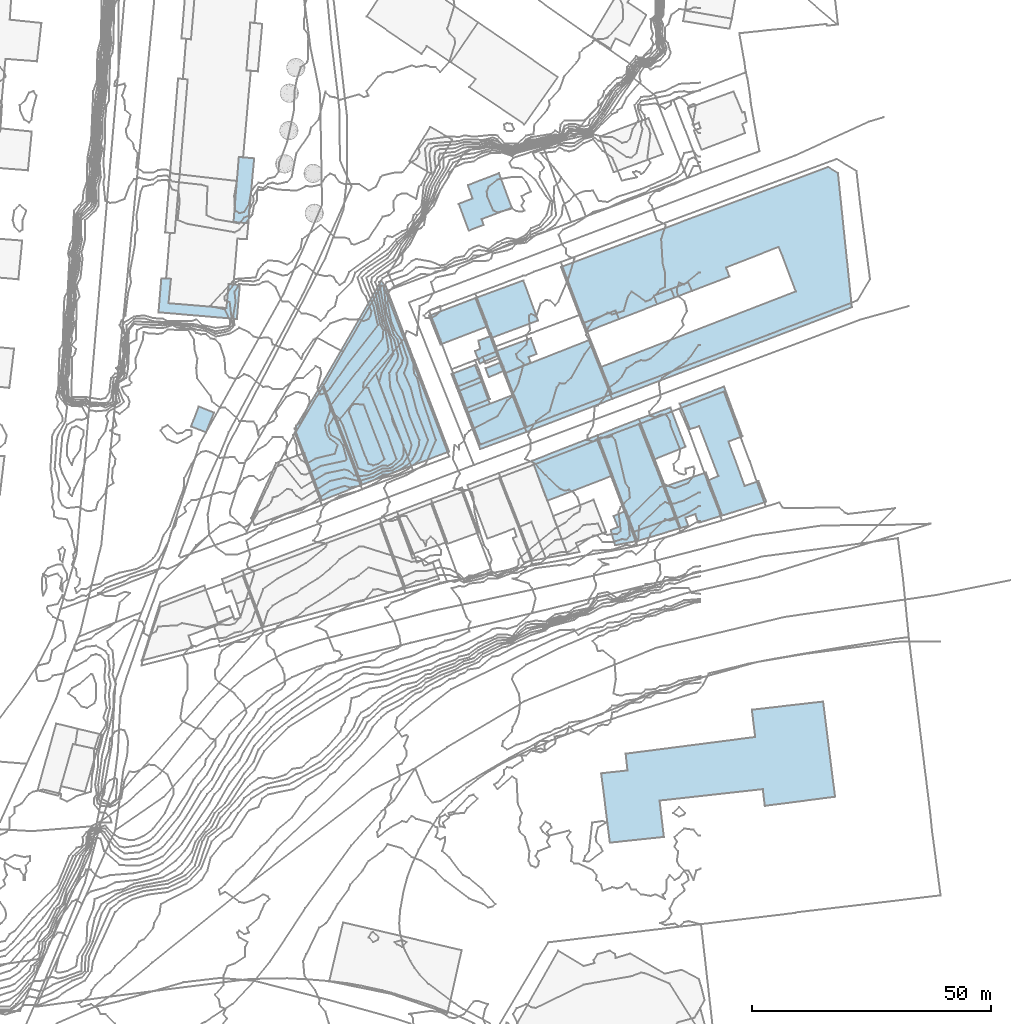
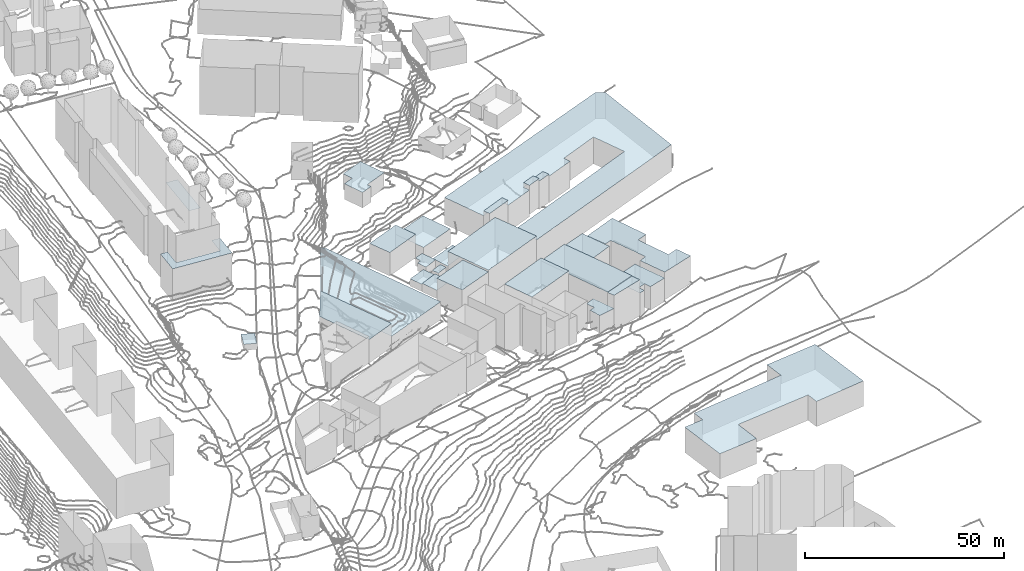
# Not in any storey, part 86 of 419: 27 roofs.
"""IFC2X3 model written with IfcOpenShell, lengths in metres."""

from ifc_helpers import new_model, si_unit, frame, origin_with_axes, place, context, subcontext, project, faceted_brep, element, save


model = new_model("IFC2X3")

# Units and contexts
model_context = context("Model", 3, precision=1e-05, world=origin_with_axes())
body_context = subcontext(model_context, "Body", "Model", "MODEL_VIEW")
ifc_project = project(units=[si_unit("AREAUNIT", "SQUARE_METRE"), si_unit("LENGTHUNIT", "METRE")], contexts=[model_context])

# Roofs
roof_1_placement = place(None, frame((919.7920204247, 707.8976909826, 81.4396011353), z_axis=(0.0, 0.0, 1.0), x_axis=(1.0, 0.0, 0.0)))
element("IfcRoof", 1, at=roof_1_placement, Name="Toiture 0", ShapeType="NOTDEFINED", context=body_context, shape_type="Brep", body=[
    faceted_brep([(12.0, -2.2999999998, 7.1603988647), (9.7000000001, 3.7000000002, 7.1603988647), (0.0, 0.0, 7.1603988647), (2.4, -6.0, 7.1603988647)], [[[0, 1, 2]], [[2, 3, 0]]]),
])
roof_2_placement = place(None, frame((957.7920204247, 663.0976909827, 76.6620004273), z_axis=(0.0, 0.0, 1.0), x_axis=(1.0, 0.0, 0.0)))
element("IfcRoof", 2, at=roof_2_placement, Name="Toiture 0", ShapeType="NOTDEFINED", context=body_context, shape_type="Brep", body=[
    faceted_brep([(0.9, -3.2000000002, 5.3379995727), (5.6000000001, -2.2999999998, 5.3379995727), (3.2000000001, 4.0, 5.3379995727), (0.6000000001, 2.8999999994, 5.3379995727), (1.5, 0.5999999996, 5.3379995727), (0.0, 0.0, 5.3379995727)], [[[0, 1, 2]], [[2, 3, 4]], [[4, 5, 0]], [[0, 2, 4]]]),
])
roof_3_placement = place(None, frame((891.6920204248, 684.2976909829, 83.1860015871), z_axis=(0.0, 0.0, 1.0), x_axis=(1.0, 0.0, 0.0)))
element("IfcRoof", 3, at=roof_3_placement, Name="Toiture 0", ShapeType="NOTDEFINED", context=body_context, shape_type="Brep", body=[
    faceted_brep([(0.0, 0.0, 7.2139984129), (5.7000000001, -15.0, 7.2139984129), (14.1, -11.7000000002, 7.2139984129), (5.8, 9.5999999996, 7.2139984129)], [[[0, 1, 2]], [[2, 3, 0]]]),
])
roof_4_placement = place(None, frame((924.4920204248, 695.6976909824, 81.3057990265), z_axis=(0.0, 0.0, 1.0), x_axis=(1.0, 0.0, 0.0)))
element("IfcRoof", 4, at=roof_4_placement, Name="Toiture 0", ShapeType="NOTDEFINED", context=body_context, shape_type="Brep", body=[
    faceted_brep([(0.0, 0.0, 2.1942009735), (1.4, -3.5999999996, 2.1942009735), (6.2999999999, -1.5999999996, 2.1942009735), (4.9, 1.9000000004, 2.1942009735)], [[[0, 1, 2]], [[2, 3, 0]]]),
])
roof_5_placement = place(None, frame((933.7920204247, 700.4976909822, 80.5634998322), z_axis=(0.0, 0.0, 1.0), x_axis=(1.0, 0.0, 0.0)))
element("IfcRoof", 5, at=roof_5_placement, Name="Toiture 0", ShapeType="NOTDEFINED", context=body_context, shape_type="Brep", body=[
    faceted_brep([(8.5, -0.5999999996, 2.9365001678), (7.3, 2.7000000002, 2.9365001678), (0.0, 0.0, 2.9365001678), (1.7000000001, -4.6999999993, 2.9365001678), (7.2000000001, -2.3999999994, 2.9365001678), (6.8, -1.1999999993, 2.9365001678)], [[[0, 1, 2]], [[2, 3, 4]], [[5, 0, 2]], [[2, 4, 5]]]),
])
roof_6_placement = place(None, frame((947.3920204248, 718.0976909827, 78.6544979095), z_axis=(0.0, 0.0, 1.0), x_axis=(1.0, 0.0, 0.0)))
element("IfcRoof", 6, at=roof_6_placement, Name="Toiture 0", ShapeType="NOTDEFINED", context=body_context, shape_type="Brep", body=[
    faceted_brep([(55.7999999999, 20.8999999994, 8.1455020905), (0.0, 0.0, 8.1455020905), (4.5, -11.7999999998, 8.1455020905), (11.3999999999, -9.1000000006, 8.1455020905), (12.1, -10.9000000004, 8.1455020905), (20.1, -7.7999999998, 8.1455020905), (26.6, -3.2000000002, 8.1455020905), (27.3999999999, -5.0, 8.1455020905), (35.2, -2.0, 8.1455020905), (49.1, -5.1000000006, 8.1455020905), (8.1, -21.0, 8.1455020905), (10.7, -27.6000000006, 8.1455020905), (60.7999999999, -8.4000000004, 8.1455020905), (57.8999999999, 19.5999999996, 8.1455020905), (19.3999999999, -6.0, 8.1455020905), (34.5, -0.1000000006, 8.1455020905), (46.2999999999, 2.2999999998, 8.1455020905), (45.5, 4.2000000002, 8.1455020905)], [[[0, 1, 2]], [[3, 4, 5]], [[6, 7, 8]], [[9, 10, 11]], [[12, 13, 0]], [[0, 2, 3]], [[3, 5, 14]], [[6, 8, 15]], [[9, 11, 12]], [[0, 3, 14]], [[14, 6, 15]], [[16, 9, 12]], [[0, 14, 15]], [[17, 16, 12]], [[0, 15, 17]], [[17, 12, 0]]]),
])
roof_7_placement = place(None, frame((963.6920204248, 686.2976909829, 77.7188002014), z_axis=(0.0, 0.0, 1.0), x_axis=(1.0, 0.0, 0.0)))
element("IfcRoof", 7, at=roof_7_placement, Name="Toiture 0", ShapeType="NOTDEFINED", context=body_context, shape_type="Brep", body=[
    faceted_brep([(9.7000000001, -5.8000000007, 7.8811997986), (6.6, 2.3999999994, 7.8811997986), (0.0, 0.0, 7.8811997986), (3.3, -8.4000000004, 7.8811997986)], [[[0, 1, 2]], [[2, 3, 0]]]),
])
roof_8_placement = place(None, frame((970.3920204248, 713.4976909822, 78.7406013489), z_axis=(0.0, 0.0, 1.0), x_axis=(1.0, 0.0, 0.0)))
element("IfcRoof", 8, at=roof_8_placement, Name="Toiture 0", ShapeType="NOTDEFINED", context=body_context, shape_type="Brep", body=[
    faceted_brep([(3.6, 1.4000000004, 8.6593986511), (0.0, 0.0, 8.6593986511), (0.7, -1.7999999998, 8.6593986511), (4.3999999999, -0.3999999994, 8.6593986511)], [[[0, 1, 2]], [[2, 3, 0]]]),
])
roof_9_placement = place(None, frame((929.3920204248, 700.4976909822, 81.3559997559), z_axis=(0.0, 0.0, 1.0), x_axis=(1.0, 0.0, 0.0)))
element("IfcRoof", 9, at=roof_9_placement, Name="Toiture 0", ShapeType="NOTDEFINED", context=body_context, shape_type="Brep", body=[
    faceted_brep([(4.7, -1.0, 2.3440002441), (3.2999999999, 2.7000000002, 2.3440002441), (3.1, 3.1000000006, 2.3440002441), (0.7, 2.2000000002, 2.3440002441), (1.1, 0.5, 2.3440002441), (0.0, 0.0, 2.3440002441), (1.0, -2.5999999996, 2.3440002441)], [[[0, 1, 2]], [[2, 3, 4]], [[4, 5, 6]], [[6, 0, 2]], [[2, 4, 6]]]),
])
roof_10_placement = place(None, frame((966.7920204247, 712.0976909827, 79.3546003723), z_axis=(0.0, 0.0, 1.0), x_axis=(1.0, 0.0, 0.0)))
element("IfcRoof", 10, at=roof_10_placement, Name="Toiture 0", ShapeType="NOTDEFINED", context=body_context, shape_type="Brep", body=[
    faceted_brep([(3.6000000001, 1.3999999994, 8.8453996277), (0.0, 0.0, 8.8453996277), (0.7000000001, -1.7999999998, 8.8453996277), (4.3, -0.4000000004, 8.8453996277)], [[[0, 1, 2]], [[2, 3, 0]]]),
])
roof_11_placement = place(None, frame((931.5920204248, 696.8976909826, 81.344001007), z_axis=(0.0, 0.0, 1.0), x_axis=(1.0, 0.0, 0.0)))
element("IfcRoof", 11, at=roof_11_placement, Name="Toiture 0", ShapeType="NOTDEFINED", context=body_context, shape_type="Brep", body=[
    faceted_brep([(0.7, -1.7999999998, 1.555998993), (3.7, -0.5999999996, 1.555998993), (3.0, 1.2000000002, 1.555998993), (0.0, 0.0, 1.555998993)], [[[0, 1, 2]], [[2, 3, 0]]]),
])
roof_12_placement = place(None, frame((863.1920204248, 708.5976909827, 90.2260009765), z_axis=(0.0, 0.0, 1.0), x_axis=(1.0, 0.0, 0.0)))
element("IfcRoof", 12, at=roof_12_placement, Name="Toiture 0", ShapeType="NOTDEFINED", context=body_context, shape_type="Brep", body=[
    faceted_brep([(2.6, 7.0, 9.9739990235), (1.6, 7.0999999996, 9.9739990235), (0.6, 7.0999999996, 9.9739990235), (16.4, -1.4000000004, 9.9739990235), (17.0, 5.7000000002, 9.9739990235), (14.7000000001, 5.8999999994, 9.9739990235), (2.1, 1.8999999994, 9.9739990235), (14.2000000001, 0.8999999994, 9.9739990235), (0.0, 0.0, 9.9739990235)], [[[0, 1, 2]], [[3, 4, 5]], [[6, 0, 2]], [[3, 5, 7]], [[6, 2, 8]], [[8, 3, 7]], [[7, 6, 8]]]),
])
roof_13_placement = place(None, frame((951.8920204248, 706.2976909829, 79.7466007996), z_axis=(0.0, 0.0, 1.0), x_axis=(1.0, 0.0, 0.0)))
element("IfcRoof", 13, at=roof_13_placement, Name="Toiture 0", ShapeType="NOTDEFINED", context=body_context, shape_type="Brep", body=[
    faceted_brep([(6.8999999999, 2.6999999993, 8.5533992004), (0.0, 0.0, 8.5533992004), (0.7, -1.8000000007, 8.5533992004), (7.6, 0.8999999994, 8.5533992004)], [[[0, 1, 2]], [[2, 3, 0]]]),
])
roof_14_placement = place(None, frame((869.9920204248, 684.6976909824, 87.3539981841), z_axis=(0.0, 0.0, 1.0), x_axis=(1.0, 0.0, 0.0)))
element("IfcRoof", 14, at=roof_14_placement, Name="Toiture 0", ShapeType="NOTDEFINED", context=body_context, shape_type="Brep", body=[
    faceted_brep([(4.7999999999, 2.9000000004, 1.8460018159), (1.6, 4.2000000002, 1.8460018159), (0.0, 0.0, 1.8460018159), (3.1, -1.2000000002, 1.8460018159)], [[[0, 1, 2]], [[2, 3, 0]]]),
])
roof_15_placement = place(None, frame((962.5920204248, 662.6976909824, 74.9748030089), z_axis=(0.0, 0.0, 1.0), x_axis=(1.0, 0.0, 0.0)))
element("IfcRoof", 15, at=roof_15_placement, Name="Toiture 0", ShapeType="NOTDEFINED", context=body_context, shape_type="Brep", body=[
    faceted_brep([(9.8, 0.7999999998, 11.0251969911), (8.9, 3.2000000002, 11.0251969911), (0.0, 0.0, 11.0251969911), (0.8, -1.8999999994, 11.0251969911)], [[[0, 1, 2]], [[2, 3, 0]]]),
])
roof_16_placement = place(None, frame((954.9920204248, 682.8976909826, 75.8620010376), z_axis=(0.0, 0.0, 1.0), x_axis=(1.0, 0.0, 0.0)))
element("IfcRoof", 16, at=roof_16_placement, Name="Toiture 0", ShapeType="NOTDEFINED", context=body_context, shape_type="Brep", body=[
    faceted_brep([(16.5, -17.0, 10.2379989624), (14.2, -10.7000000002, 10.2379989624), (8.7, 3.4000000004, 10.2379989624), (0.0, 0.0, 10.2379989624), (7.6, -20.2000000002, 10.2379989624)], [[[0, 1, 2]], [[2, 3, 4]], [[4, 0, 2]]]),
])
roof_17_placement = place(None, frame((925.9920204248, 731.2976909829, 85.7525016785), z_axis=(0.0, 0.0, 1.0), x_axis=(1.0, 0.0, 0.0)))
element("IfcRoof", 17, at=roof_17_placement, Name="Toiture 0", ShapeType="NOTDEFINED", context=body_context, shape_type="Brep", body=[
    faceted_brep([(8.4, 6.3999999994, 4.7474983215), (1.9, 3.8999999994, 4.7474983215), (2.9, 1.0999999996, 4.7474983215), (0.0, 0.0, 4.7474983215), (2.1, -5.6000000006, 4.7474983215), (5.2, -4.4000000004, 4.7474983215), (4.7999999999, -3.2000000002, 4.7474983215), (11.1, -0.8000000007, 4.7474983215)], [[[0, 1, 2]], [[2, 3, 4]], [[4, 5, 6]], [[6, 7, 0]], [[0, 2, 4]], [[4, 6, 0]]]),
])
roof_18_placement = place(None, frame((935.4920204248, 695.7976909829, 78.6544979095), z_axis=(0.0, 0.0, 1.0), x_axis=(1.0, 0.0, 0.0)))
element("IfcRoof", 18, at=roof_18_placement, Name="Toiture 0", ShapeType="NOTDEFINED", context=body_context, shape_type="Brep", body=[
    faceted_brep([(22.6, -5.3000000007, 9.3455020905), (17.7, 7.0, 9.3455020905), (0.0, 0.0, 9.3455020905), (4.7, -12.2000000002, 9.3455020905)], [[[0, 1, 2]], [[2, 3, 0]]]),
])
roof_19_placement = place(None, frame((955.7920204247, 612.1976909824, 70.0599998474), z_axis=(0.0, 0.0, 1.0), x_axis=(1.0, 0.0, 0.0)))
element("IfcRoof", 19, at=roof_19_placement, Name="Toiture 0", ShapeType="NOTDEFINED", context=body_context, shape_type="Brep", body=[
    faceted_brep([(34.2000000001, -6.7999999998, 7.7400001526), (38.1000000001, -6.2999999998, 7.7400001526), (48.9, -4.8999999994, 7.7400001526), (46.4, 15.0, 7.7400001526), (31.5, 13.2999999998, 7.7400001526), (32.2000000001, 7.6000000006, 7.7400001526), (5.1000000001, 4.1000000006, 7.7400001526), (5.5, 0.6000000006, 7.7400001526), (0.0, 0.0, 7.7400001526), (1.8, -14.5, 7.7400001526), (13.1000000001, -13.2999999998, 7.7400001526), (12.2000000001, -5.7000000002, 7.7400001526), (33.8, -3.2999999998, 7.7400001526)], [[[0, 1, 2]], [[2, 3, 4]], [[5, 6, 7]], [[7, 8, 9]], [[9, 10, 11]], [[12, 0, 2]], [[2, 4, 5]], [[7, 9, 11]], [[12, 2, 5]], [[5, 7, 11]], [[11, 12, 5]]]),
])
roof_20_placement = place(None, frame((941.3920204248, 677.5976909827, 78.9970001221), z_axis=(0.0, 0.0, 1.0), x_axis=(1.0, 0.0, 0.0)))
element("IfcRoof", 20, at=roof_20_placement, Name="Toiture 0", ShapeType="NOTDEFINED", context=body_context, shape_type="Brep", body=[
    faceted_brep([(16.7999999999, -3.1000000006, 8.0029998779), (13.6, 5.2999999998, 8.0029998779), (0.0, 0.0, 8.0029998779), (3.1, -8.4000000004, 8.0029998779)], [[[0, 1, 2]], [[2, 3, 0]]]),
])
roof_21_placement = place(None, frame((878.8920204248, 727.4976909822, 93.5763989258), z_axis=(0.0, 0.0, 1.0), x_axis=(1.0, 0.0, 0.0)))
element("IfcRoof", 21, at=roof_21_placement, Name="Toiture 0", ShapeType="NOTDEFINED", context=body_context, shape_type="Brep", body=[
    faceted_brep([(0.0, 0.0, 7.4236010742), (3.1, -0.2999999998, 7.4236010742), (4.2999999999, 13.3000000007, 7.4236010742), (1.1, 13.6000000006, 7.4236010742)], [[[0, 1, 2]], [[2, 3, 0]]]),
])
roof_22_placement = place(None, frame((969.1920204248, 672.1976909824, 74.7240036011), z_axis=(0.0, 0.0, 1.0), x_axis=(1.0, 0.0, 0.0)))
element("IfcRoof", 22, at=roof_22_placement, Name="Toiture 0", ShapeType="NOTDEFINED", context=body_context, shape_type="Brep", body=[
    faceted_brep([(6.9, -7.5999999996, 7.1759963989), (11.9, -6.0999999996, 7.1759963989), (8.5, 2.9000000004, 7.1759963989), (0.0, 0.0, 7.1759963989), (3.2000000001, -8.7000000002, 7.1759963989), (4.8, -8.2000000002, 7.1759963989), (6.3, -5.7999999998, 7.1759963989), (4.2000000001, -6.5, 7.1759963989)], [[[0, 1, 2]], [[3, 4, 5]], [[6, 0, 2]], [[3, 5, 7]], [[7, 6, 2]], [[2, 3, 7]]]),
])
roof_23_placement = place(None, frame((972.1920204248, 689.4976909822, 75.197001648), z_axis=(0.0, 0.0, 1.0), x_axis=(1.0, 0.0, 0.0)))
element("IfcRoof", 23, at=roof_23_placement, Name="Toiture 0", ShapeType="NOTDEFINED", context=body_context, shape_type="Brep", body=[
    faceted_brep([(13.1, -6.7999999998, 8.502998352), (9.3, 3.6000000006, 8.502998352), (0.0, 0.0, 8.502998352), (2.2000000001, -5.2999999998, 8.502998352), (4.1, -4.6999999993, 8.502998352), (8.1, -15.0999999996, 8.502998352), (6.1, -16.0, 8.502998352), (8.9, -23.3999999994, 8.502998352), (18.1, -20.5, 8.502998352), (16.5, -16.1999999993, 8.502998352), (10.2000000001, -7.8999999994, 8.502998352), (13.6, -17.1999999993, 8.502998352)], [[[0, 1, 2]], [[2, 3, 4]], [[5, 6, 7]], [[7, 8, 9]], [[10, 0, 2]], [[7, 9, 11]], [[10, 2, 4]], [[5, 7, 11]], [[11, 10, 4]], [[4, 5, 11]]]),
])
roof_24_placement = place(None, frame((897.4920204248, 693.8976909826, 81.0530003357), z_axis=(0.0, 0.0, 1.0), x_axis=(1.0, 0.0, 0.0)))
element("IfcRoof", 24, at=roof_24_placement, Name="Toiture 0", ShapeType="NOTDEFINED", context=body_context, shape_type="Brep", body=[
    faceted_brep([(0.0, 0.0, 5.4469996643), (8.2999999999, -21.2999999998, 5.4469996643), (26.5, -14.4000000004, 5.4469996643), (13.2999999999, 20.0999999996, 5.4469996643), (12.2999999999, 21.2999999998, 5.4469996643)], [[[0, 1, 2]], [[2, 3, 4]], [[4, 0, 2]]]),
])
roof_25_placement = place(None, frame((925.8920204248, 692.0976909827, 81.242002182), z_axis=(0.0, 0.0, 1.0), x_axis=(1.0, 0.0, 0.0)))
element("IfcRoof", 25, at=roof_25_placement, Name="Toiture 0", ShapeType="NOTDEFINED", context=body_context, shape_type="Brep", body=[
    faceted_brep([(0.0, 0.0, 2.557997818), (1.7, -4.5, 2.557997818), (6.6, -2.6000000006, 2.557997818), (4.8999999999, 2.0, 2.557997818)], [[[0, 1, 2]], [[2, 3, 0]]]),
])
roof_26_placement = place(None, frame((927.5920204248, 687.5976909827, 79.9844006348), z_axis=(0.0, 0.0, 1.0), x_axis=(1.0, 0.0, 0.0)))
element("IfcRoof", 26, at=roof_26_placement, Name="Toiture 0", ShapeType="NOTDEFINED", context=body_context, shape_type="Brep", body=[
    faceted_brep([(2.9, -7.6000000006, 7.5155993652), (12.6, -4.0, 7.5155993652), (9.6, 3.7000000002, 7.5155993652), (0.0, 0.0, 7.5155993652)], [[[0, 1, 2]], [[2, 3, 0]]]),
])
roof_27_placement = place(None, frame((929.4920204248, 711.5976909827, 80.8450012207), z_axis=(0.0, 0.0, 1.0), x_axis=(1.0, 0.0, 0.0)))
element("IfcRoof", 27, at=roof_27_placement, Name="Toiture 0", ShapeType="NOTDEFINED", context=body_context, shape_type="Brep", body=[
    faceted_brep([(13.1, -4.7000000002, 4.8549987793), (10.0, 3.7000000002, 4.8549987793), (0.0, 0.0, 4.8549987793), (3.2, -8.4000000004, 4.8549987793)], [[[0, 1, 2]], [[2, 3, 0]]]),
])

save(model, "model.ifc")
